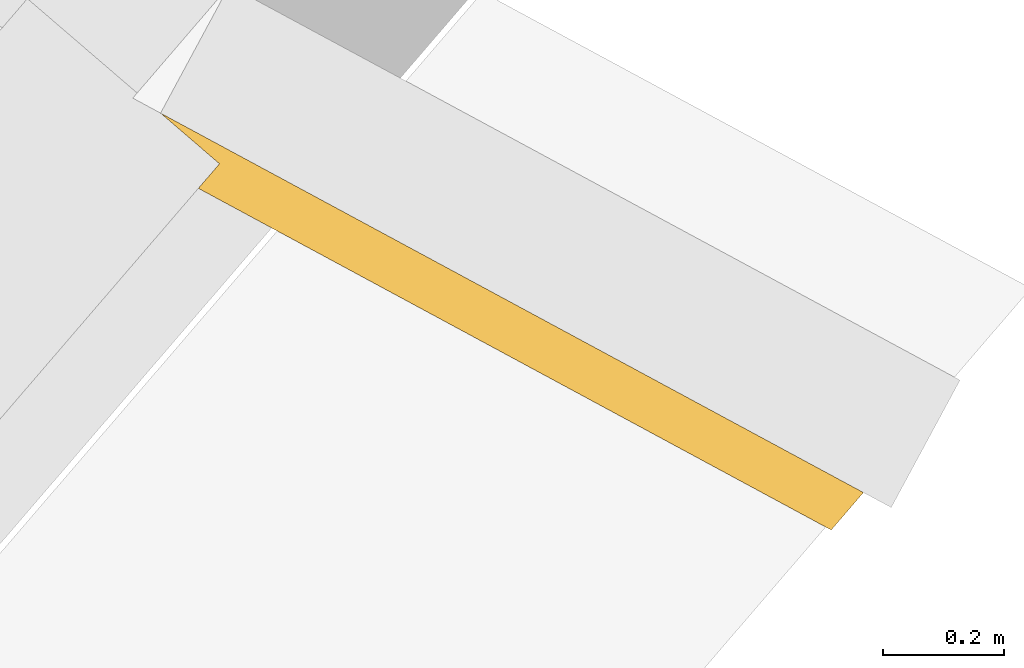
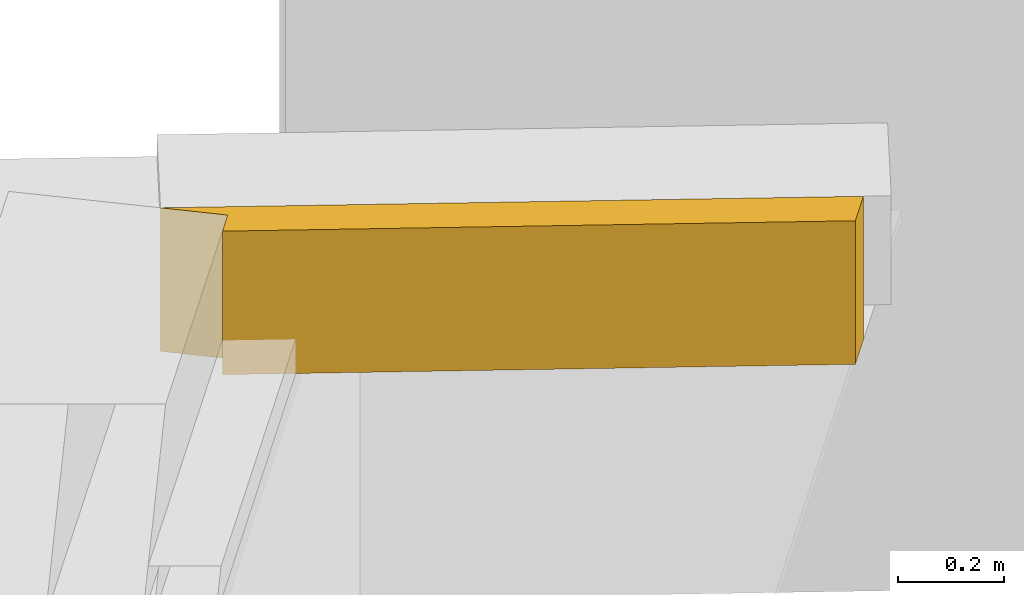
# One storey, part 15 of 36: 1 covering.
"""IFC2X3 building model written with IfcOpenShell, lengths in metres."""

from ifc_helpers import new_model, entity, si_unit, converted_unit, derived_unit, money_unit, direction, frame, origin_with_axes, place, context, subcontext, project, spatial, polyline, outline, extrude, boolean, faceted_brep, material, type_object, element, save


model = new_model("IFC2X3")

# Units and contexts
model_context = context("Model", 3, precision=1e-05, world=origin_with_axes(), true_north=direction((0.0, 1.0)))
body_context = subcontext(model_context, "Body", "Model", "MODEL_VIEW")
ifc_project = project(units=[si_unit("LENGTHUNIT", "METRE"), si_unit("AREAUNIT", "SQUARE_METRE"), si_unit("VOLUMEUNIT", "CUBIC_METRE"), converted_unit("PLANEANGLEUNIT", "DEGREE", entity("IfcPlaneAngleMeasure", 0.0174532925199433), si_unit("PLANEANGLEUNIT", "RADIAN"), dimensions=[0, 0, 0, 0, 0, 0, 0]), money_unit("EUR"), converted_unit("TIMEUNIT", "Year", entity("IfcTimeMeasure", 31556926.0), si_unit("TIMEUNIT", "SECOND"), dimensions=[0, 0, 1, 0, 0, 0, 0]), si_unit("MASSUNIT", "GRAM", prefix="KILO"), si_unit("THERMODYNAMICTEMPERATUREUNIT", "DEGREE_CELSIUS"), si_unit("LUMINOUSINTENSITYUNIT", "LUMEN"), si_unit("ENERGYUNIT", "JOULE", prefix="MEGA"), derived_unit("THERMALCONDUCTANCEUNIT", [(si_unit("POWERUNIT", "WATT"), 1), (si_unit("LENGTHUNIT", "METRE"), -1), (si_unit("THERMODYNAMICTEMPERATUREUNIT", "KELVIN"), -1)]), derived_unit("SPECIFICHEATCAPACITYUNIT", [(si_unit("ENERGYUNIT", "JOULE"), 1), (si_unit("MASSUNIT", "GRAM", prefix="KILO"), -1), (si_unit("THERMODYNAMICTEMPERATUREUNIT", "KELVIN"), -1)]), derived_unit("MASSDENSITYUNIT", [(si_unit("MASSUNIT", "GRAM", prefix="KILO"), 1), (si_unit("VOLUMEUNIT", "CUBIC_METRE"), -1)])], contexts=[model_context])

# Site, building, storey
site_placement = place(None, frame((-3.949935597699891, 1.740105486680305, 0.0), z_axis=(0.0, 0.0, 1.0), x_axis=(0.8799804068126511, -0.475009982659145, 0.0)))
site = spatial("IfcSite", under=ifc_project, at=site_placement, Name="Gelände", CompositionType="ELEMENT")
building_placement = place(site_placement, origin_with_axes())
building = spatial("IfcBuilding", under=site, at=building_placement, Name="Gebäude", CompositionType="ELEMENT")
storey_placement = place(building_placement, origin_with_axes())
storey = spatial("IfcBuildingStorey", under=building, at=storey_placement, Name="Erdgeschoss", CompositionType="ELEMENT", Elevation=0.0)

# Covering
ifc_material = material(Name="_SIWH - Dämmung, weich Mineralwolle")
covering_type = type_object("IfcCoveringType", Name="_SIWH - WA | Dämmung 8 | 8cm 80", PredefinedType="INSULATION")
covering_placement = place(storey_placement, frame((30.05457861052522, 14.84304611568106, 3.62), z_axis=(0.0, 0.0, 1.0), x_axis=(1.0, 0.0, 0.0)))
element("IfcCovering", 1, at=covering_placement, inside=storey, type_object=covering_type, material=ifc_material, Name="A-Wand036", PredefinedType="INSULATION", context=body_context, shape_type="CSG", body=[
    boolean("DIFFERENCE", boolean("DIFFERENCE", extrude(outline(polyline([(-0.2631289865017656, -0.08000000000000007), (1.376705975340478, -0.08000000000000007), (1.376705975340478, 0.0), (-0.2631289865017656, 0.0), (-0.2631289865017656, -0.08000000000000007)])), origin_with_axes(), (0.0, 0.0, 1.0), 0.330000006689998), faceted_brep([(0.1782423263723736, -0.02748169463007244, 0.3300000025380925), (0.05241556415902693, 0.0, 0.3300000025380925), (-0.2631289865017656, 0.0, 0.3300000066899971), (-0.2631289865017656, -0.08000000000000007, 0.3300000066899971), (0.1667718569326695, -0.08000000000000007, 0.3300000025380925), (0.1782423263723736, -0.02748169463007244, 0.07999999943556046), (0.1782423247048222, -0.02748169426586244, 0.0), (0.05241556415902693, 0.0, 0.0), (-0.2631289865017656, 0.0, 0.0), (-0.2631289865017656, -0.08000000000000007, 0.0), (0.1667718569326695, -0.08000000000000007, 0.07999999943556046), (0.1667718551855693, -0.08000000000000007, 0.0)], [[[0, 1, 2, 3, 4]], [[1, 0, 5, 6, 7]], [[1, 7, 8, 2]], [[2, 8, 9, 3]], [[10, 4, 3, 9, 11]], [[0, 4, 10, 5]], [[11, 6, 5, 10]], [[6, 11, 9, 8, 7]]])), faceted_brep([(1.376705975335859, 0.0, 0.0), (1.37670597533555, 0.0, 0.3300000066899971), (1.376705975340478, -0.08000000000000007, 0.3300000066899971), (1.376705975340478, -0.08000000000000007, 0.0), (1.359233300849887, -0.08000000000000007, 0.3300000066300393), (1.359233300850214, -0.08000000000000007, 0.0)], [[[0, 1, 2, 3]], [[4, 1, 0, 5]], [[1, 4, 2]], [[4, 5, 3, 2]], [[5, 0, 3]]])),
])

save(model, "model.ifc")
